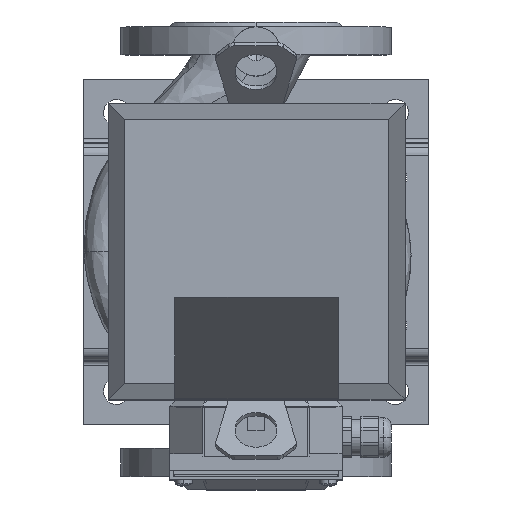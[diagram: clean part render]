
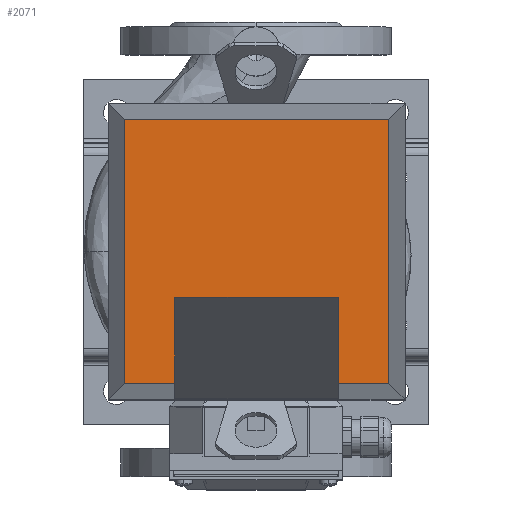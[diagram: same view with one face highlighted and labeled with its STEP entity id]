
A CAD part, top view. The second image highlights one B-rep face of the part: STEP entity #2071.
In plain terms, the highlighted planar face has unit normal (0, 0, 1) as drawn and (0, 1, 0) by its records, which use the part's own axes.
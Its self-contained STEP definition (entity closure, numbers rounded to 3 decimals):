
#2071=ADVANCED_FACE('',(#3743),#3744,.T.);
#2081=EDGE_CURVE('',#3756,#3759,#3760,.T.);
#3743=FACE_OUTER_BOUND('',#9907,.T.);
#3744=PLANE('',#9908);
#3756=VERTEX_POINT('',#9921);
#3759=VERTEX_POINT('',#9926);
#3760=LINE('',#9927,#9928);
#9907=EDGE_LOOP('',(#17372,#17373,#17374,#17375,#17376,#17377,#17378,#17379));
#9908=AXIS2_PLACEMENT_3D('',#17380,#17381,#17382);
#9921=CARTESIAN_POINT('',(50.0,114.0,118.64));
#9926=CARTESIAN_POINT('',(50.0,114.0,171.0));
#9927=CARTESIAN_POINT('',(50.0,114.0,90.179));
#9928=VECTOR('',#17408,1.0);
#17372=ORIENTED_EDGE('',*,*,#2081,.T.);
#17373=ORIENTED_EDGE('',*,*,#31297,.F.);
#17374=ORIENTED_EDGE('',*,*,#31305,.F.);
#17375=ORIENTED_EDGE('',*,*,#31307,.F.);
#17376=ORIENTED_EDGE('',*,*,#31299,.F.);
#17377=ORIENTED_EDGE('',*,*,#31293,.F.);
#17378=ORIENTED_EDGE('',*,*,#31286,.T.);
#17379=ORIENTED_EDGE('',*,*,#31289,.T.);
#17380=CARTESIAN_POINT('',(0.0,114.0,0.0));
#17381=DIRECTION('',(0.0,1.0,-0.0));
#17382=DIRECTION('',(-1.0,0.0,0.0));
#17408=DIRECTION('',(0.0,0.0,1.0));
#31286=EDGE_CURVE('',#50132,#50134,#50136,.T.);
#31289=EDGE_CURVE('',#50134,#3756,#50139,.T.);
#31293=EDGE_CURVE('',#50132,#50143,#50144,.T.);
#31297=EDGE_CURVE('',#50149,#3759,#50151,.T.);
#31299=EDGE_CURVE('',#50143,#50153,#50154,.T.);
#31305=EDGE_CURVE('',#50159,#50149,#50161,.T.);
#31307=EDGE_CURVE('',#50153,#50159,#50163,.T.);
#50132=VERTEX_POINT('',#58519);
#50134=VERTEX_POINT('',#58522);
#50136=LINE('',#58525,#58526);
#50139=LINE('',#58530,#58531);
#50143=VERTEX_POINT('',#58536);
#50144=LINE('',#58537,#58538);
#50149=VERTEX_POINT('',#58545);
#50151=LINE('',#58548,#58549);
#50153=VERTEX_POINT('',#58551);
#50154=LINE('',#58552,#58553);
#50159=VERTEX_POINT('',#58561);
#50161=LINE('',#58564,#58565);
#50163=LINE('',#58567,#58568);
#58519=CARTESIAN_POINT('',(-50.0,114.0,171.0));
#58522=CARTESIAN_POINT('',(-50.0,114.0,118.64));
#58525=CARTESIAN_POINT('',(-50.0,114.0,90.179));
#58526=VECTOR('',#68843,1.0);
#58530=CARTESIAN_POINT('',(25.0,114.0,118.64));
#58531=VECTOR('',#68845,1.0);
#58536=CARTESIAN_POINT('',(-80.5,114.0,171.0));
#58537=CARTESIAN_POINT('',(45.25,114.0,171.0));
#58538=VECTOR('',#68847,1.0);
#58545=CARTESIAN_POINT('',(80.5,114.0,171.0));
#58548=CARTESIAN_POINT('',(45.25,114.0,171.0));
#58549=VECTOR('',#68851,1.0);
#58551=CARTESIAN_POINT('',(-80.5,114.0,10.0));
#58552=CARTESIAN_POINT('',(-80.5,114.0,0.0));
#58553=VECTOR('',#68852,1.0);
#58561=CARTESIAN_POINT('',(80.5,114.0,10.0));
#58564=CARTESIAN_POINT('',(80.5,114.0,0.0));
#58565=VECTOR('',#68857,1.0);
#58567=CARTESIAN_POINT('',(45.25,114.0,10.0));
#58568=VECTOR('',#68858,1.0);
#68843=DIRECTION('',(-0.0,0.0,-1.0));
#68845=DIRECTION('',(1.0,-0.0,0.0));
#68847=DIRECTION('',(-1.0,0.0,-0.0));
#68851=DIRECTION('',(-1.0,0.0,-0.0));
#68852=DIRECTION('',(-0.0,-0.0,-1.0));
#68857=DIRECTION('',(-0.0,0.0,1.0));
#68858=DIRECTION('',(1.0,-0.0,-0.0));
